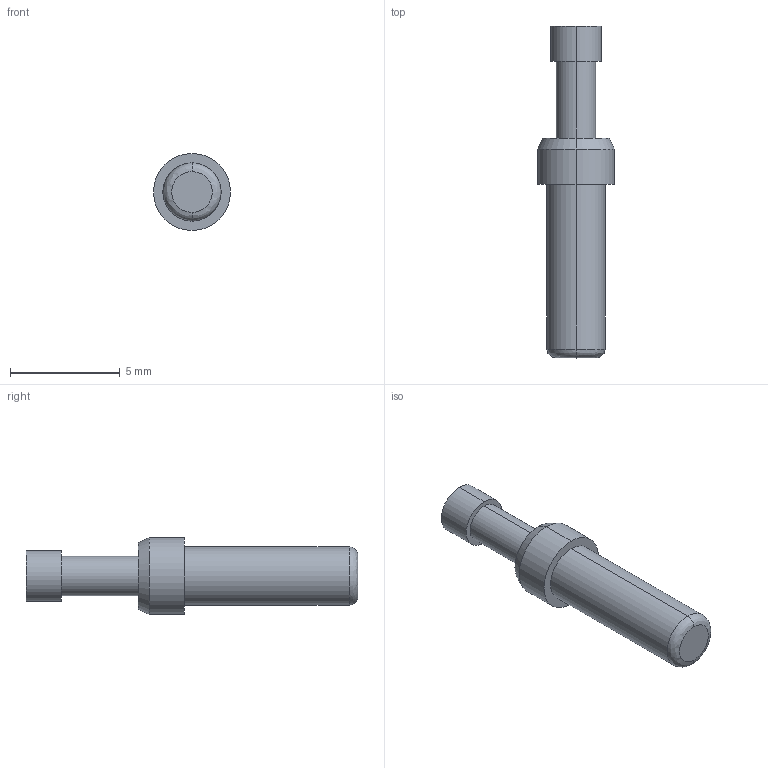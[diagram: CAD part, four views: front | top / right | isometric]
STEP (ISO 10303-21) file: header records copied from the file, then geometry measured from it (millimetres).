
FILE_DESCRIPTION (( 'STEP AP214' ), '1' );
FILE_NAME ('PC8F-090.STEP', '2021-07-12T15:03:36', ( '' ), ( '' ), 'SwSTEP 2.0', 'SolidWorks 2021', '' );
FILE_SCHEMA (( 'AUTOMOTIVE_DESIGN' ));
Length unit declared in the file: millimetre
Products named in the file (1): PC8F-090
Bounding box: 3.5 x 15.1 x 3.5 mm (x, y, z)
Volume: 78.5 mm3; surface area: 138.9 mm2
Topology: 1 solids, 1 shells, 17 faces, 32 edges, 20 vertices
Faces by surface type: cylinder 8, plane 5, bspline 2, cone 2
Entity records: 490 total; most frequent: CARTESIAN_POINT 106, DIRECTION 82, ORIENTED_EDGE 64, AXIS2_PLACEMENT_3D 36, EDGE_CURVE 32, EDGE_LOOP 20, VERTEX_POINT 20, CIRCLE 20
